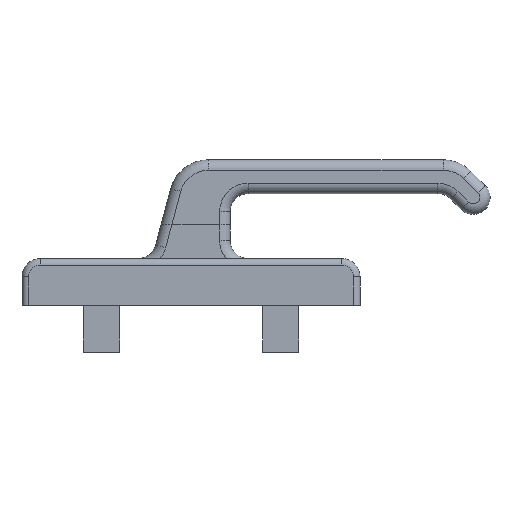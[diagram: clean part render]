
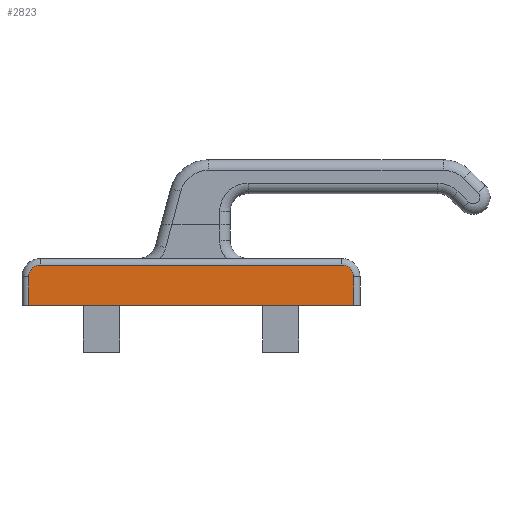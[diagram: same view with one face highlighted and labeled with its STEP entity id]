
A CAD part, left-side view. The second image highlights one B-rep face of the part: STEP entity #2823.
In plain terms, the highlighted planar face has unit normal (-1, 0, 0).
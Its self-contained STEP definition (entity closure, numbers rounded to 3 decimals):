
#78 = CARTESIAN_POINT ( 'NONE',  ( -13., -58., 11. ) ) ;
#151 = VECTOR ( 'NONE', #2229, 1000. ) ;
#172 = VERTEX_POINT ( 'NONE', #670 ) ;
#253 = AXIS2_PLACEMENT_3D ( 'NONE', #1946, #1029, #1547 ) ;
#255 = CARTESIAN_POINT ( 'NONE',  ( -13., -62.5, 0. ) ) ;
#343 = CARTESIAN_POINT ( 'NONE',  ( -13., 58., 15.5 ) ) ;
#431 = LINE ( 'NONE', #1174, #2879 ) ;
#488 = DIRECTION ( 'NONE',  ( 0., 0., 1. ) ) ;
#521 = AXIS2_PLACEMENT_3D ( 'NONE', #78, #1231, #1872 ) ;
#609 = ORIENTED_EDGE ( 'NONE', *, *, #1041, .T. ) ;
#670 = CARTESIAN_POINT ( 'NONE',  ( -13., -58., 15.5 ) ) ;
#684 = LINE ( 'NONE', #1593, #2388 ) ;
#825 = CARTESIAN_POINT ( 'NONE',  ( -13., 58., 11. ) ) ;
#924 = DIRECTION ( 'NONE',  ( 0., 0., -1. ) ) ;
#1029 = DIRECTION ( 'NONE',  ( 1., 0., 0. ) ) ;
#1034 = ORIENTED_EDGE ( 'NONE', *, *, #2915, .T. ) ;
#1040 = FACE_OUTER_BOUND ( 'NONE', #1601, .T. ) ;
#1041 = EDGE_CURVE ( 'NONE', #1600, #2940, #431, .T. ) ;
#1079 = ORIENTED_EDGE ( 'NONE', *, *, #2415, .T. ) ;
#1153 = VERTEX_POINT ( 'NONE', #2807 ) ;
#1174 = CARTESIAN_POINT ( 'NONE',  ( -13., -62.5, 18. ) ) ;
#1189 = CIRCLE ( 'NONE', #1707, 4.5 ) ;
#1191 = CARTESIAN_POINT ( 'NONE',  ( -13., -62.5, 11. ) ) ;
#1231 = DIRECTION ( 'NONE',  ( -1., 0., 0. ) ) ;
#1337 = DIRECTION ( 'NONE',  ( 0., 1., 0. ) ) ;
#1362 = LINE ( 'NONE', #2693, #2724 ) ;
#1449 = EDGE_CURVE ( 'NONE', #1689, #1600, #2451, .T. ) ;
#1468 = ORIENTED_EDGE ( 'NONE', *, *, #2200, .T. ) ;
#1524 = ORIENTED_EDGE ( 'NONE', *, *, #1941, .T. ) ;
#1547 = DIRECTION ( 'NONE',  ( 0., 1., 0. ) ) ;
#1593 = CARTESIAN_POINT ( 'NONE',  ( -13., 62.5, 18. ) ) ;
#1600 = VERTEX_POINT ( 'NONE', #255 ) ;
#1601 = EDGE_LOOP ( 'NONE', ( #1524, #1034, #1632, #609, #1468, #1079 ) ) ;
#1632 = ORIENTED_EDGE ( 'NONE', *, *, #1449, .T. ) ;
#1689 = VERTEX_POINT ( 'NONE', #1764 ) ;
#1707 = AXIS2_PLACEMENT_3D ( 'NONE', #825, #1747, #1337 ) ;
#1747 = DIRECTION ( 'NONE',  ( -1., 0., 0. ) ) ;
#1764 = CARTESIAN_POINT ( 'NONE',  ( -13., 62.5, 0. ) ) ;
#1872 = DIRECTION ( 'NONE',  ( 0., 1., 0. ) ) ;
#1941 = EDGE_CURVE ( 'NONE', #2774, #1153, #1189, .T. ) ;
#1946 = CARTESIAN_POINT ( 'NONE',  ( -13., 65., 18. ) ) ;
#2137 = CIRCLE ( 'NONE', #521, 4.5 ) ;
#2157 = PLANE ( 'NONE',  #253 ) ;
#2200 = EDGE_CURVE ( 'NONE', #2940, #172, #2137, .T. ) ;
#2229 = DIRECTION ( 'NONE',  ( 0., -1., 0. ) ) ;
#2388 = VECTOR ( 'NONE', #924, 1000. ) ;
#2415 = EDGE_CURVE ( 'NONE', #172, #2774, #1362, .T. ) ;
#2451 = LINE ( 'NONE', #2469, #151 ) ;
#2469 = CARTESIAN_POINT ( 'NONE',  ( -13., 65., 0. ) ) ;
#2518 = DIRECTION ( 'NONE',  ( 0., 1., 0. ) ) ;
#2693 = CARTESIAN_POINT ( 'NONE',  ( -13., 65., 15.5 ) ) ;
#2724 = VECTOR ( 'NONE', #2518, 1000. ) ;
#2774 = VERTEX_POINT ( 'NONE', #343 ) ;
#2807 = CARTESIAN_POINT ( 'NONE',  ( -13., 62.5, 11. ) ) ;
#2823 = ADVANCED_FACE ( 'NONE', ( #1040 ), #2157, .F. ) ;
#2879 = VECTOR ( 'NONE', #488, 1000. ) ;
#2915 = EDGE_CURVE ( 'NONE', #1153, #1689, #684, .T. ) ;
#2940 = VERTEX_POINT ( 'NONE', #1191 ) ;
